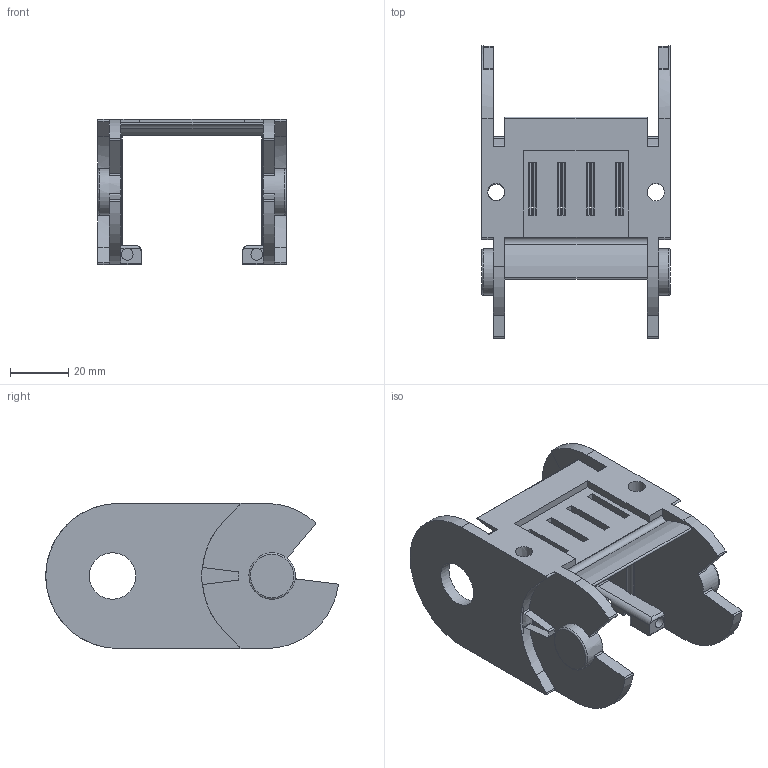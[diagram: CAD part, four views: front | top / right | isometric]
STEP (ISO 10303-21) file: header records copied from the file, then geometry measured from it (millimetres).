
FILE_DESCRIPTION((''),'2;1');
FILE_NAME('C:\Uebbing\PARAMETERKETTEN\KOLIBRI\Kol_50_065_5\Kol_50_065_5_Lasche.stp','2011-11-02T13:09:49',('Uebbing'),(''),'Autodesk Inventor 10','Autodesk Inventor 10','');
FILE_SCHEMA(('AUTOMOTIVE_DESIGN { 1 0 10303 214 1 1 1 1 }'));
Length unit declared in the file: millimetre
Products named in the file (1): Kol_50_065_5_Lasche
Bounding box: 65 x 100.78 x 50 mm (x, y, z)
Volume: 45088.1 mm3; surface area: 30534.2 mm2
Topology: 1 solids, 1 shells, 380 faces, 1059 edges, 695 vertices
Faces by surface type: plane 189, bspline 99, cylinder 91, torus 1
Full cylindrical faces by diameter (mm): 2.011 x1, 3.531 x1, 4 x2, 6 x1, 8 x2, 16 x2
Entity records: 12947 total; most frequent: CARTESIAN_POINT 3305, ORIENTED_EDGE 2076, DIRECTION 1890, EDGE_CURVE 1038, VECTOR 734, LINE 734, VERTEX_POINT 690, AXIS2_PLACEMENT_3D 578
